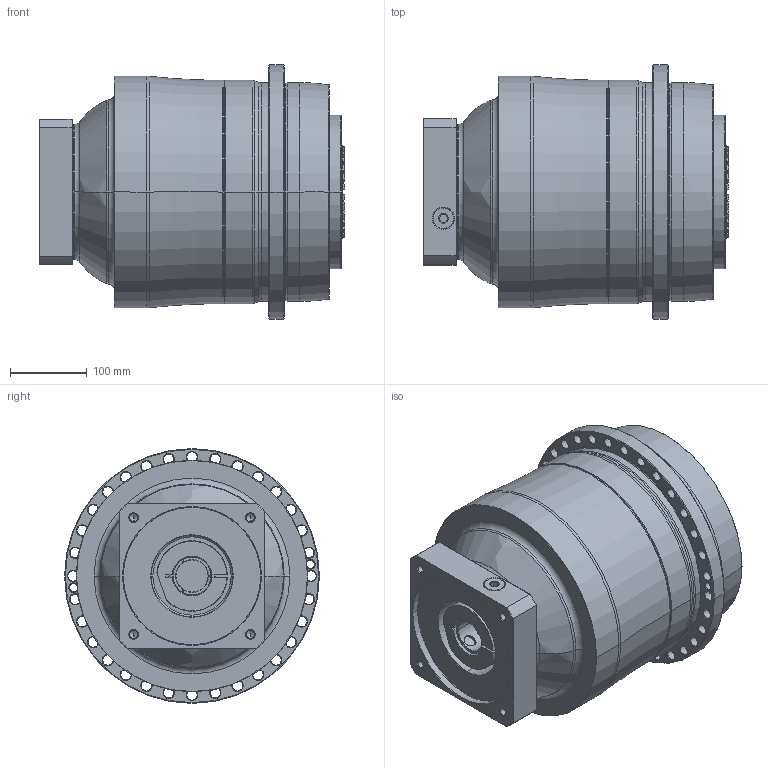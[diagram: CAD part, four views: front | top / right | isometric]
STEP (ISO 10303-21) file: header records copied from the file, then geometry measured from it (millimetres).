
FILE_DESCRIPTION((''),'2;1');
FILE_NAME('APC285_3ST_42-P0409A00201_ASM','2018-07-05T',('d01226'),(''),'PRO/ENGINEER BY PARAMETRIC TECHNOLOGY CORPORATION, 2008410','PRO/ENGINEER BY PARAMETRIC TECHNOLOGY CORPORATION, 2008410','');
FILE_SCHEMA(('CONFIG_CONTROL_DESIGN'));
Length unit declared in the file: millimetre
Products named in the file (9): P0278801003; P03598G0103; P1366800301; P0503A00012; P0912603001; P1211800001; P0409A00201; 21711422019; APC285_3ST_42-P0409A00201_ASM
Assembly tree (8 placements, depth 2):
  APC285_3ST_42-P0409A00201_ASM
    P0278801003
    P03598G0103
    P1366800301
    P0503A00012
    P0912603001
    P1211800001
    P0409A00201
    21711422019
Bounding box: 398.6 x 332 x 332 mm (x, y, z)
Volume: 22490075.2 mm3; surface area: 1045311.9 mm2
Topology: 9 solids, 21 shells, 813 faces, 1991 edges, 1217 vertices
Faces by surface type: cone 290, cylinder 230, plane 145, torus 132, bspline 16
Entity records: 29418 total; most frequent: CARTESIAN_POINT 9803, DIRECTION 4383, ORIENTED_EDGE 3896, EDGE_CURVE 1973, AXIS2_PLACEMENT_3D 1923, VERTEX_POINT 1217, CIRCLE 1097, EDGE_LOOP 934
